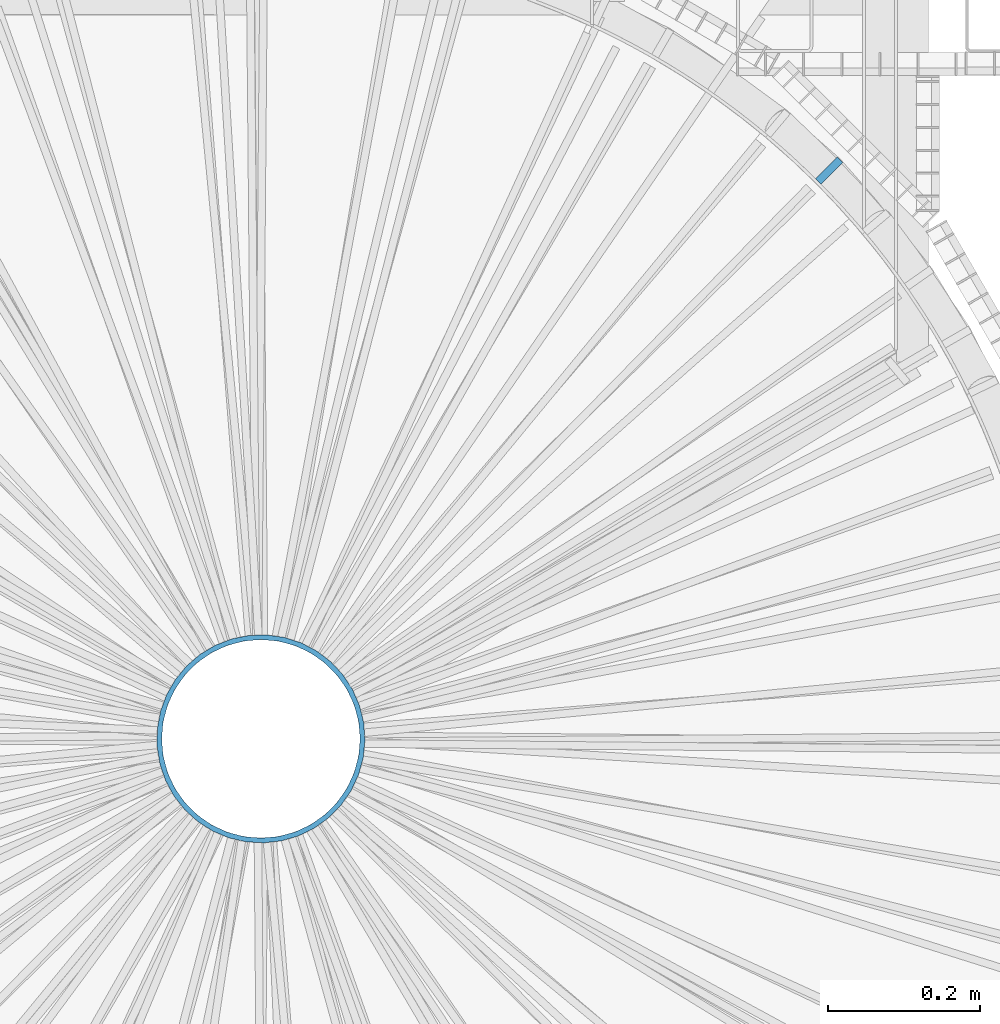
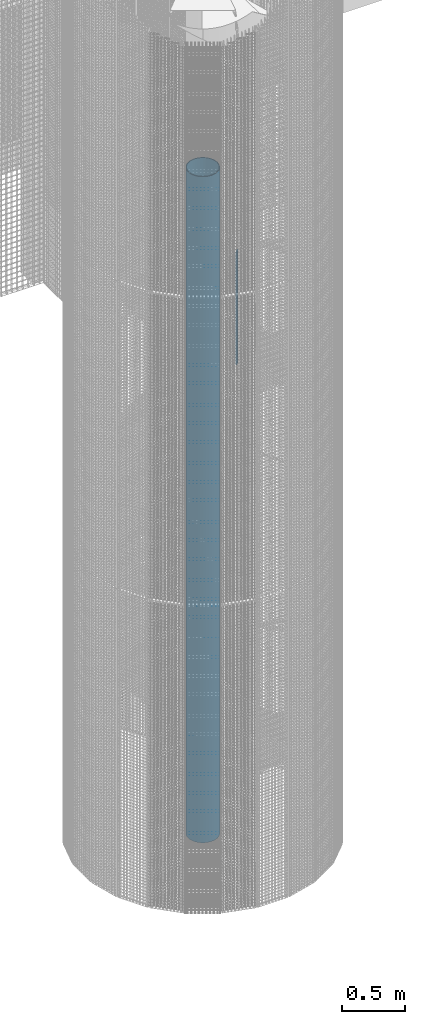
# One storey, part 52 of 1183: 2 columns, 2 elements without a shape of their own.
"""IFC2X3 building model written with IfcOpenShell, lengths in millimetres."""

from ifc_helpers import new_model, si_unit, frame, origin_with_axes, origin_2d_with_axis, place, context, subcontext, project, spatial, rectangle, hollow_circle, extrude, material, type_object, element, aggregate, save


model = new_model("IFC2X3")

# Units and contexts
model_context = context("Model", 3, precision=1e-05, world=origin_with_axes())
body_context = subcontext(model_context, "Body", "Model", "MODEL_VIEW")
ifc_project = project(units=[si_unit("LENGTHUNIT", "METRE", prefix="MILLI"), si_unit("AREAUNIT", "SQUARE_METRE"), si_unit("VOLUMEUNIT", "CUBIC_METRE"), si_unit("MASSUNIT", "GRAM", prefix="KILO"), si_unit("TIMEUNIT", "SECOND"), si_unit("PLANEANGLEUNIT", "RADIAN"), si_unit("SOLIDANGLEUNIT", "STERADIAN"), si_unit("THERMODYNAMICTEMPERATUREUNIT", "DEGREE_CELSIUS"), si_unit("LUMINOUSINTENSITYUNIT", "LUMEN")], contexts=[model_context])

# Site, building, storey
site_placement = place(None, origin_with_axes())
site = spatial("IfcSite", under=ifc_project, at=site_placement, Name="Undefined", CompositionType="ELEMENT")
building_placement = place(site_placement, origin_with_axes())
building = spatial("IfcBuilding", under=site, at=building_placement, Name="Undefined", CompositionType="ELEMENT")
storey_placement = place(building_placement, origin_with_axes())
storey = spatial("IfcBuildingStorey", under=building, at=storey_placement, Name="Undefined", CompositionType="ELEMENT", Elevation=0.0)

# Assembly, column
assembly_1_placement = place(storey_placement, origin_with_axes())
assembly_1 = element("IfcElementAssembly", 1, at=assembly_1_placement, inside=storey, Name="MONTANT", AssemblyPlace="NOTDEFINED", PredefinedType="NOTDEFINED")
ifc_material = material(Name="STEEL/S235JR")
column_type_1 = type_object("IfcColumnType", Name="PL10*40", PredefinedType="NOTDEFINED")
column_1_placement = place(assembly_1_placement, frame((22345.2905473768, 745.290547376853, 3863.0), z_axis=(0.0, 0.0, 1.0), x_axis=(-0.70710678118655, -0.707106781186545, 0.0)))
column_1 = element("IfcColumn", 2, at=column_1_placement, type_object=column_type_1, material=ifc_material, Name="MONTANT", context=body_context, shape_type="SweptSolid", body=[
    extrude(rectangle(XDim=10.0, YDim=40.0, at=origin_2d_with_axis()), frame((0.0, 0.0, 1100.0), z_axis=(0.0, 0.0, -1.0), x_axis=(0.0, 1.0, 0.0)), (0.0, 0.0, 1.0), 1100.0),
])
aggregate(assembly_1, [column_1])

assembly_2_placement = place(storey_placement, origin_with_axes())
assembly_2 = element("IfcElementAssembly", 3, at=assembly_2_placement, inside=storey, Name="POTEAU", AssemblyPlace="NOTDEFINED", PredefinedType="NOTDEFINED")
column_type_2 = type_object("IfcColumnType", Name="TUBE-273*6.3", PredefinedType="NOTDEFINED")
column_2_placement = place(assembly_2_placement, frame((21600.0, 0.0, 0.0), z_axis=(0.0, 0.0, 1.0), x_axis=(-0.49999999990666, -0.866025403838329, 0.0)))
column_2 = element("IfcColumn", 4, at=column_2_placement, type_object=column_type_2, material=ifc_material, Name="POTEAU", context=body_context, shape_type="SweptSolid", body=[
    extrude(hollow_circle(Radius=136.5, WallThickness=6.3, at=origin_2d_with_axis()), frame((0.0, 0.0, 6490.0), z_axis=(0.0, 0.0, -1.0), x_axis=(0.0, 1.0, 0.0)), (0.0, 0.0, 1.0), 6490.0),
])
aggregate(assembly_2, [column_2])

save(model, "model.ifc")
